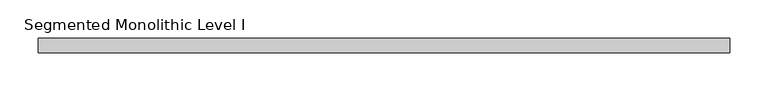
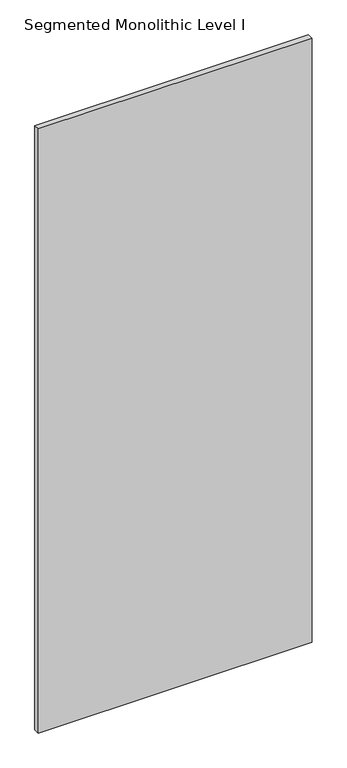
"""IFC4 building model written with IfcOpenShell, lengths in millimetres: proxy geometry, Panel-Fascia-Teknion-Altos-Standard : Segmented Monolithic Level I."""

from ifc_helpers import new_model, si_unit, frame, origin, place, context, project, spatial, polyline, outline, extrude, source, transform, mapped, element, save


def segmented_monolithic_level_i_79c8b360(model_context):
    return source(origin(), model_context, "Body", "SweptSolid", [
        extrude(outline(polyline([(454.0305563, -9.525), (-454.0305562, -9.525), (-454.0305562, 9.525), (454.0305563, 9.525), (454.0305563, -9.525)])), frame((0.0, 0.0, 3.175), z_axis=(0.0, 0.0, 1.0), x_axis=(1.0, 0.0, 0.0)), (0.0, 0.0, 1.0), 2117.725),
    ])


if __name__ == "__main__":
    model = new_model("IFC4")
    model_context = context("Model", 3, world=origin())
    ifc_project = project(units=[si_unit("LENGTHUNIT", "METRE", prefix="MILLI")], contexts=[model_context])
    site = spatial("IfcSite", under=ifc_project)
    building = spatial("IfcBuilding", under=site)
    placement = place(None, origin())
    segmented_monolithic_level_i_shape = segmented_monolithic_level_i_79c8b360(model_context)
    element("IfcBuildingElementProxy", 1, Name="Panel-Fascia-Teknion-Altos-Standard : Segmented Monolithic Level I", ObjectType="Panel-Fascia-Teknion-Altos-Standard : Segmented Monolithic Level I", at=placement, inside=building, context=model_context, shape_type="MappedRepresentation", body=[
        mapped(segmented_monolithic_level_i_shape, transform((0.0, 0.0, 0.0), x_axis=(1.0, 0.0, 0.0), y_axis=(0.0, 1.0, 0.0), z_axis=(0.0, 0.0, 1.0))),
    ])
    save(model, "model.ifc")
